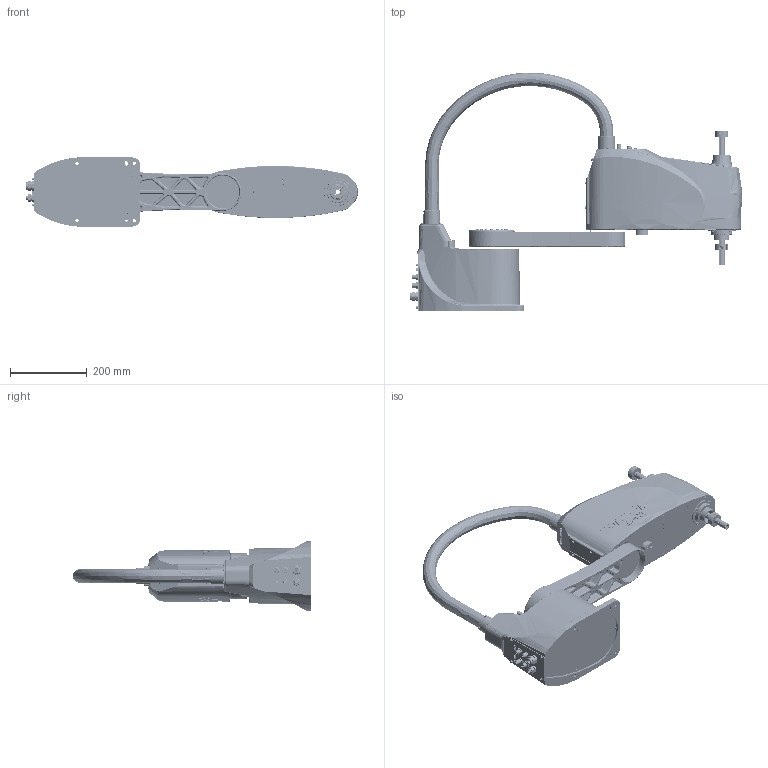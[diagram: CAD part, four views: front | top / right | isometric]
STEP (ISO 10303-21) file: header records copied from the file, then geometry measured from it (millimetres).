
FILE_DESCRIPTION (( 'STEP AP214' ), '1' );
FILE_NAME ('ÍØÐÇ³½ TR002-HP600.STEP', '2020-12-02T06:46:00', ( '' ), ( '' ), 'SwSTEP 2.0', 'SolidWorks 2016', '' );
FILE_SCHEMA (( 'AUTOMOTIVE_DESIGN' ));
Length unit declared in the file: millimetre
Products named in the file (47): GB70-85 M4℅20; GB70-85 M6×12 - 不锈钢; TSR600-1-2001; 路啣諉芛 BPM4; IO啣嘐隅郪璃; GB70-85 M4×16 - 不锈钢; GB70-85 M4℅8; GB70-85 M4℅25; TSR600-1-3001_______; D-SUBĸͷ; 萇擢嘐隅芛PG-7; 路啣諉芛APMT6_蕼偞; 1粣軞蚾; 固定环 带聚氨酯紧凑型 开口型16-35-15; 阹陎魚 TR002-HP600; GB70-85 M4℅30; ¼Óºñ²»Ðâ¸ÖÆ½µæÈ¦  GB T95 4 SUS 304 D8¡Á1.2t; 鞠褒蹟翐; O型圈67x1.5; TSR600-1-1003; TSR600-1-3019; GB70-85 M3℅30; D-SUB鼠渀; 1粣疏恇奪諉芛; TSR600-1-1002; 豪瑩等啋; 快速接頭_M32公制_預設; 1粣綴裔啣郪璃; BNS1616AE+350LC5_錨璃靡備; TSR600-1-1008; 佪裝嘐隅遠; TSR600-1-1009; GB70-85 M4×8 - 不锈钢; 苤旋等啋; GB70-85 M3℅8; TSR600-1-301701; 萇擢嘐隅芛PG-16; TSR600-1-3016; GB70-85 M3×20 - 不锈钢; TSR600-1-1001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
Assembly tree (134 placements, depth 5):
  阹陎魚 TR002-HP600
    1粣軞蚾
      TSR600-1-1001
      1粣疏恇奪諉芛
        TSR600-1-1009
        快速接頭_M32公制_預設
      1粣綴裔啣郪璃
        TSR600-1-1003
        D-SUBĸͷ
        萇擢嘐隅芛PG-16
        路啣諉芛 BPM4  x2
        鞠褒蹟翐  x2
        路啣諉芛APMT6_蕼偞  x2
        萇擢嘐隅芛PG-7
      IO啣嘐隅郪璃
        TSR600-1-1002
      TSR600-1-1008
      GB70-85 M4℅25  x2
      GB70-85 M3℅8  x7
      GB70-85 M4℅8  x4
      GB70-85 M4℅20  x2
    湮旋軞蚾
      TSR600-1-2001
      GB70-85 M3℅30
      O型圈67x1.5
    苤旋等啋
      TSR600-1-3001_______
      豪瑩等啋
        BNS1616AE+350LC5_錨璃靡備
        佪裝嘐隅遠  x2
          固定环 带聚氨酯紧凑型 开口型16-35-15
          GB70-85 M4×16 - 不锈钢
      奪盄婦盓殤
        TSR600-1-3004
        开关 卓朗奇 ZLQ19A-P11F EG（绿色）24V ST钛金色
        D-SUB鼠渀
        路啣諉芛 BPM4  x2
        快速接頭_M32公制_預設
        鞠褒蹟翐  x2
        路啣諉芛APMT6_蕼偞  x2
      TSR600-1-3016
      GB70-85 M6×12 - 不锈钢  x2
      GB70-85 M4×8 - 不锈钢  x13
      GB70-85 M3×20 - 不锈钢  x6
      TSR600-1-3019
      TSR600-1-301701
    GB70-85 M4℅30  x16
    GB／T848-2002 3×0.5  x16
    疏恇奪scara600-20191122
    ¼Óºñ²»Ðâ¸ÖÆ½µæÈ¦  GB T95 4 SUS 304 D8¡Á1.2t  x16
    不锈钢平垫圈 GB T 95 8 SUS 201 D12×1.6T  x4
Bounding box: 865.52 x 622.49 x 180.64 mm (x, y, z)
Volume: 4059578.3 mm3; surface area: 1527818.8 mm2
Topology: 137 solids, 137 shells, 4960 faces, 11952 edges, 7562 vertices
Faces by surface type: plane 1887, cylinder 1820, bspline 844, cone 393, torus 16
Entity records: 237873 total; most frequent: CARTESIAN_POINT 158994, ORIENTED_EDGE 16852, DIRECTION 14541, EDGE_CURVE 8426, AXIS2_PLACEMENT_3D 5580, VERTEX_POINT 5409, EDGE_LOOP 3997, ADVANCED_FACE 3385
